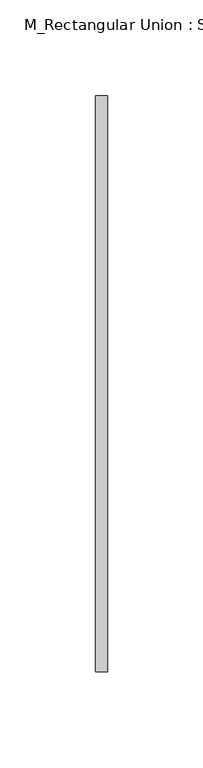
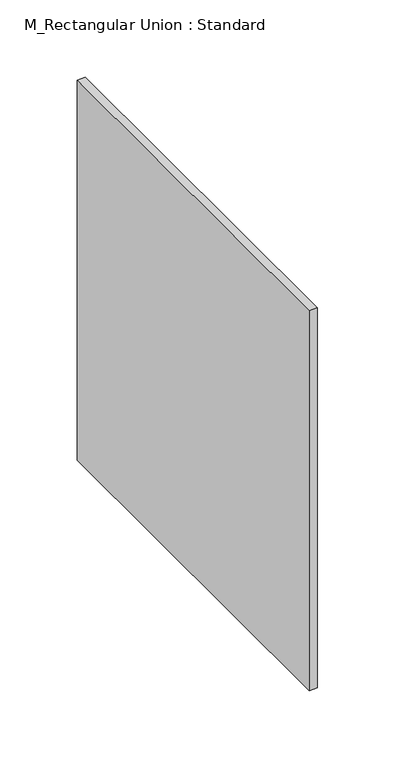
"""IFC4 building model written with IfcOpenShell, lengths in millimetres: duct fitting geometry, M_Rectangular Union : Standard."""

from ifc_helpers import new_model, si_unit, frame, origin, place, context, project, spatial, polyline, outline, extrude, source, transform, mapped, element, save


def m_rectangular_union_standard_91feea1d(model_context):
    return source(origin(), model_context, "Body", "SweptSolid", [
        extrude(outline(polyline([(3.0, 150.0), (3.0, -150.0), (-3.0, -150.0), (-3.0, 150.0), (3.0, 150.0)])), frame((0.0, 0.0, -150.0), z_axis=(0.0, 0.0, 1.0), x_axis=(1.0, 0.0, 0.0)), (0.0, 0.0, 1.0), 300.0),
        extrude(outline(polyline([(3.0, 150.0), (3.0, -150.0), (-3.0, -150.0), (-3.0, 150.0), (3.0, 150.0)])), frame((0.0, 0.0, -150.0), z_axis=(0.0, 0.0, 1.0), x_axis=(1.0, 0.0, 0.0)), (0.0, 0.0, 1.0), 300.0),
        extrude(outline(polyline([(3.0, 150.0), (3.0, -150.0), (-3.0, -150.0), (-3.0, 150.0), (3.0, 150.0)])), frame((0.0, 0.0, -150.0), z_axis=(0.0, 0.0, 1.0), x_axis=(1.0, 0.0, 0.0)), (0.0, 0.0, 1.0), 300.0),
    ])


if __name__ == "__main__":
    model = new_model("IFC4")
    model_context = context("Model", 3, world=origin())
    ifc_project = project(units=[si_unit("LENGTHUNIT", "METRE", prefix="MILLI")], contexts=[model_context])
    site = spatial("IfcSite", under=ifc_project)
    building = spatial("IfcBuilding", under=site)
    placement = place(None, origin())
    m_rectangular_union_standard_shape = m_rectangular_union_standard_91feea1d(model_context)
    element("IfcDuctFitting", 1, ObjectType="M_Rectangular Union : Standard", at=placement, inside=building, context=model_context, shape_type="MappedRepresentation", body=[
        mapped(m_rectangular_union_standard_shape, transform((0.0, 0.0, 0.0), x_axis=(1.0, 0.0, 0.0), y_axis=(0.0, 1.0, 0.0), z_axis=(0.0, 0.0, 1.0))),
    ])
    save(model, "model.ifc")
